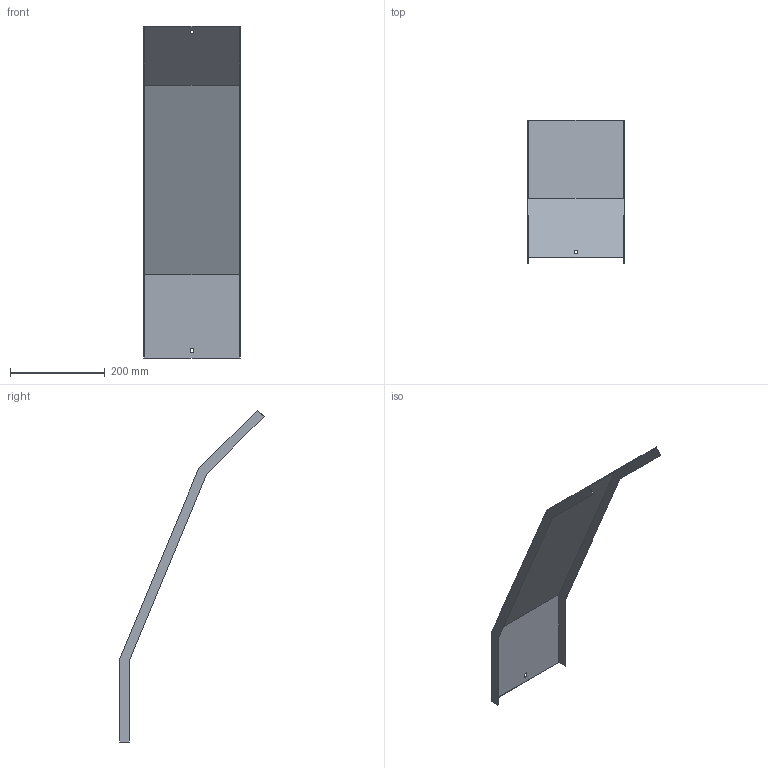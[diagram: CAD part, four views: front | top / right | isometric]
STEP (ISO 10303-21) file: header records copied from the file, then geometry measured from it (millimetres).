
FILE_DESCRIPTION (( 'STEP AP214' ), '1' );
FILE_NAME ('34N5J200.step', '2025-02-21T10:33:38', ( '' ), ( '' ), 'SwSTEP 2.0', 'SolidWorks 2023', '' );
FILE_SCHEMA (( 'AUTOMOTIVE_DESIGN' ));
Length unit declared in the file: millimetre
Products named in the file (1): 34N5J200
Bounding box: 203 x 304.65 x 701.34 mm (x, y, z)
Volume: 282096.8 mm3; surface area: 379253.8 mm2
Topology: 1 solids, 1 shells, 26 faces, 72 edges, 48 vertices
Faces by surface type: plane 26
Entity records: 847 total; most frequent: CARTESIAN_POINT 147, ORIENTED_EDGE 144, DIRECTION 126, LINE 72, VECTOR 72, EDGE_CURVE 72, VERTEX_POINT 48, EDGE_LOOP 30
